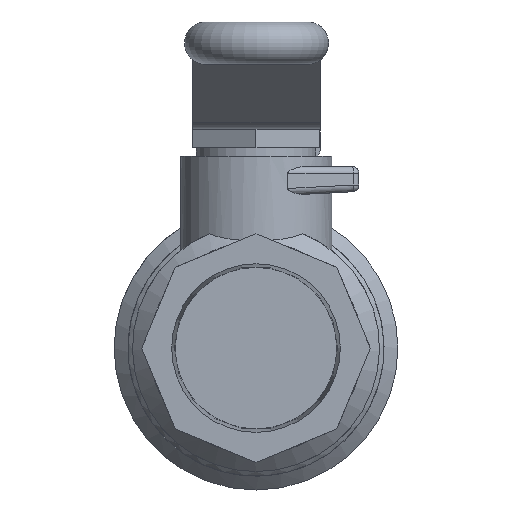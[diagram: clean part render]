
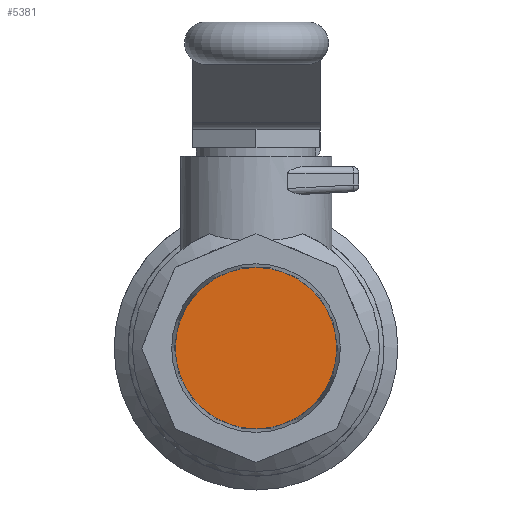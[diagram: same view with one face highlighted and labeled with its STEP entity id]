
A CAD part, left-side view. The second image highlights one B-rep face of the part: STEP entity #5381.
In plain terms, the highlighted planar face has unit normal (-1, 0, 0).
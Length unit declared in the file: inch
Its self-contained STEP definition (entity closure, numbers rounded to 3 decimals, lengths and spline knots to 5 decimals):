
#5365=CARTESIAN_POINT('',(0.5343,-0.18626,0.52767));
#5366=DIRECTION('',(1.0,0.0,0.0));
#5367=DIRECTION('',(0.0,1.0,0.0));
#5368=AXIS2_PLACEMENT_3D('',#5365,#5366,#5367);
#5369=PLANE('',#5368);
#5370=CARTESIAN_POINT('',(0.5343,-0.37252,0.52767));
#5371=VERTEX_POINT('',#5370);
#5372=CARTESIAN_POINT('',(0.5343,0.0,0.52767));
#5373=DIRECTION('',(-1.0,0.0,0.0));
#5374=DIRECTION('',(0.0,-1.0,0.0));
#5375=AXIS2_PLACEMENT_3D('',#5372,#5373,#5374);
#5376=CIRCLE('',#5375,0.37252);
#5377=EDGE_CURVE('',#5371,#5371,#5376,.T.);
#5378=ORIENTED_EDGE('',*,*,#5377,.T.);
#5379=EDGE_LOOP('',(#5378));
#5380=FACE_OUTER_BOUND('',#5379,.T.);
#5381=ADVANCED_FACE('',(#5380),#5369,.F.);
